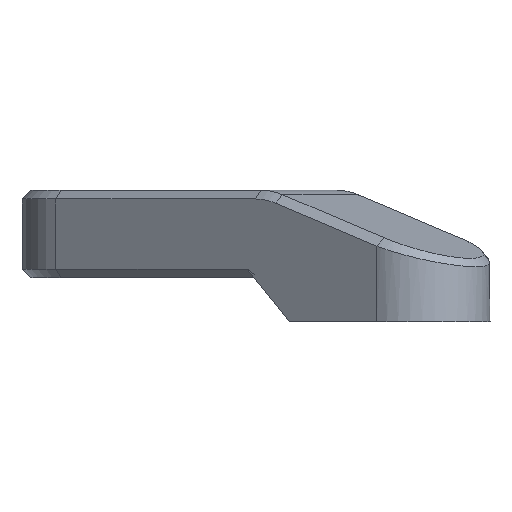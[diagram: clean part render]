
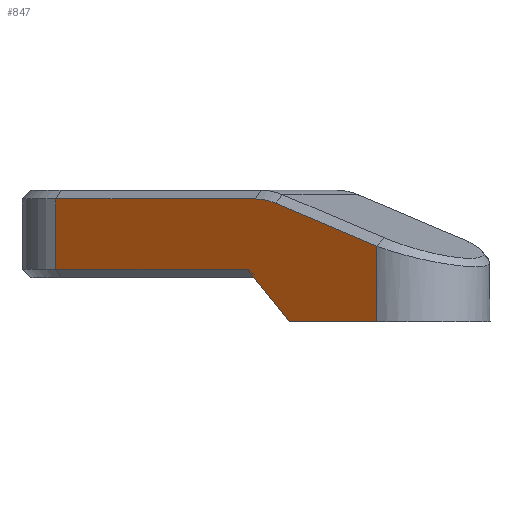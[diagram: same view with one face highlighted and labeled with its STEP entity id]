
A CAD part, left-side view. The second image highlights one B-rep face of the part: STEP entity #847.
In plain terms, the highlighted planar face has unit normal (-0.789, 0.615, 0).
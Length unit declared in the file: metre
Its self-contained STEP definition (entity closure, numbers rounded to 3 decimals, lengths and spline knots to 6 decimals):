
#44=CIRCLE('',#923,0.009);
#74=B_SPLINE_CURVE_WITH_KNOTS('',3,(#1326,#1327,#1328,#1329),
 .UNSPECIFIED.,.F.,.F.,(4,4),(-0.001424,0.007126),
 .UNSPECIFIED.);
#112=ORIENTED_EDGE('',*,*,#363,.T.);
#113=ORIENTED_EDGE('',*,*,#364,.T.);
#114=ORIENTED_EDGE('',*,*,#365,.T.);
#115=ORIENTED_EDGE('',*,*,#366,.F.);
#116=ORIENTED_EDGE('',*,*,#367,.F.);
#117=ORIENTED_EDGE('',*,*,#368,.T.);
#118=ORIENTED_EDGE('',*,*,#369,.T.);
#119=ORIENTED_EDGE('',*,*,#370,.T.);
#363=EDGE_CURVE('',#488,#489,#557,.T.);
#364=EDGE_CURVE('',#489,#490,#558,.T.);
#365=EDGE_CURVE('',#490,#491,#74,.T.);
#366=EDGE_CURVE('',#492,#491,#559,.T.);
#367=EDGE_CURVE('',#493,#492,#560,.T.);
#368=EDGE_CURVE('',#493,#494,#561,.T.);
#369=EDGE_CURVE('',#494,#495,#44,.T.);
#370=EDGE_CURVE('',#495,#488,#562,.T.);
#488=VERTEX_POINT('',#1322);
#489=VERTEX_POINT('',#1323);
#490=VERTEX_POINT('',#1325);
#491=VERTEX_POINT('',#1330);
#492=VERTEX_POINT('',#1332);
#493=VERTEX_POINT('',#1334);
#494=VERTEX_POINT('',#1336);
#495=VERTEX_POINT('',#1338);
#557=LINE('',#1321,#633);
#558=LINE('',#1324,#634);
#559=LINE('',#1331,#635);
#560=LINE('',#1333,#636);
#561=LINE('',#1335,#637);
#562=LINE('',#1339,#638);
#633=VECTOR('',#1038,1.);
#634=VECTOR('',#1039,1.);
#635=VECTOR('',#1040,1.);
#636=VECTOR('',#1041,1.);
#637=VECTOR('',#1042,1.);
#638=VECTOR('',#1045,1.);
#697=EDGE_LOOP('',(#112,#113,#114,#115,#116,#117,#118,#119));
#757=FACE_BOUND('',#697,.T.);
#816=PLANE('',#922);
#847=ADVANCED_FACE('',(#757),#816,.T.);
#922=AXIS2_PLACEMENT_3D('',#1320,#1036,#1037);
#923=AXIS2_PLACEMENT_3D('',#1337,#1043,#1044);
#1036=DIRECTION('',(-0.789,0.615,0.));
#1037=DIRECTION('',(-0.615,-0.789,0.));
#1038=DIRECTION('',(0.,0.,-1.));
#1039=DIRECTION('',(-0.615,-0.789,0.));
#1040=DIRECTION('',(0.615,0.789,0.));
#1041=DIRECTION('',(0.,0.,-1.));
#1042=DIRECTION('',(0.583,0.748,0.317));
#1043=DIRECTION('',(-0.789,0.615,0.));
#1044=DIRECTION('',(-0.615,-0.789,0.));
#1045=DIRECTION('',(0.615,0.789,0.));
#1320=CARTESIAN_POINT('',(0.028103,0.049081,0.019575));
#1321=CARTESIAN_POINT('',(0.040858,0.065451,0.019575));
#1322=CARTESIAN_POINT('',(0.040858,0.065451,0.018575));
#1323=CARTESIAN_POINT('',(0.040858,0.065451,0.010575));
#1324=CARTESIAN_POINT('',(0.028103,0.049081,0.010575));
#1325=CARTESIAN_POINT('',(0.023847,0.04362,0.010575));
#1326=CARTESIAN_POINT('',(0.023847,0.04362,0.010575));
#1327=CARTESIAN_POINT('',(0.022601,0.04202,0.008573));
#1328=CARTESIAN_POINT('',(0.021353,0.040419,0.006573));
#1329=CARTESIAN_POINT('',(0.020104,0.038816,0.004575));
#1330=CARTESIAN_POINT('',(0.020104,0.038816,0.004575));
#1331=CARTESIAN_POINT('',(0.028103,0.049081,0.004575));
#1332=CARTESIAN_POINT('',(0.012344,0.028857,0.004575));
#1333=CARTESIAN_POINT('',(0.012344,0.028857,0.019575));
#1334=CARTESIAN_POINT('',(0.012344,0.028857,0.013199));
#1335=CARTESIAN_POINT('',(0.021358,0.040426,0.018109));
#1336=CARTESIAN_POINT('',(0.021358,0.040426,0.018109));
#1337=CARTESIAN_POINT('',(0.023114,0.04268,0.009575));
#1338=CARTESIAN_POINT('',(0.023114,0.04268,0.018575));
#1339=CARTESIAN_POINT('',(0.028103,0.049081,0.018575));
